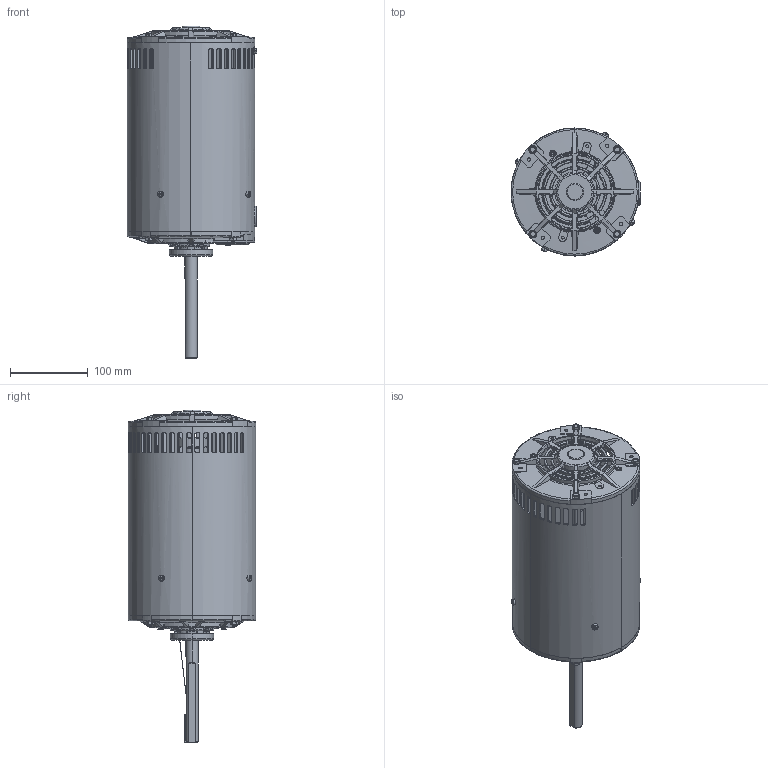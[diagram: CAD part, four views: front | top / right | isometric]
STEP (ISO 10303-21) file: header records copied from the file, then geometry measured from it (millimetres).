
FILE_DESCRIPTION (( 'STEP AP203' ), '1' );
FILE_NAME ('100153-956_Rev07.STEP', '2019-10-02T14:57:22', ( '' ), ( '' ), 'SwSTEP 2.0', 'SolidWorks 2015', '' );
FILE_SCHEMA (( 'CONFIG_CONTROL_DESIGN' ));
Products named in the file (1): 100153-956_Rev07
Bounding box: 167.29 x 164.65 x 427.74 mm (x, y, z)
Volume: 613372.7 mm3; surface area: 455485.7 mm2
Topology: 27 solids, 27 shells, 3056 faces, 8133 edges, 5138 vertices
Faces by surface type: plane 1010, bspline 625, cone 549, cylinder 535, torus 303, sphere 34
Entity records: 119568 total; most frequent: CARTESIAN_POINT 50868, ORIENTED_EDGE 16226, DIRECTION 12031, EDGE_CURVE 8113, VERTEX_POINT 5138, AXIS2_PLACEMENT_3D 4927, EDGE_LOOP 3261, B_SPLINE_CURVE_WITH_KNOTS 3112
